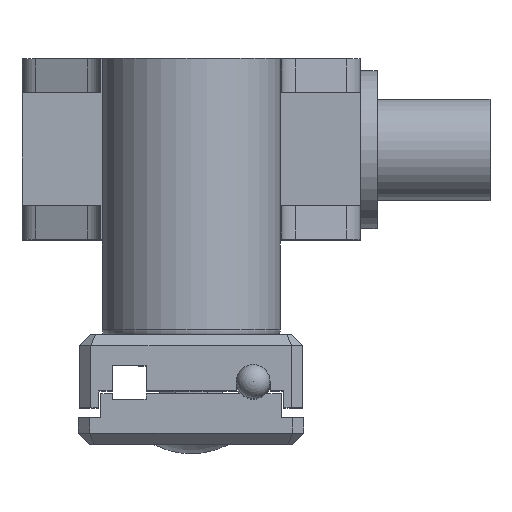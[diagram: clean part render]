
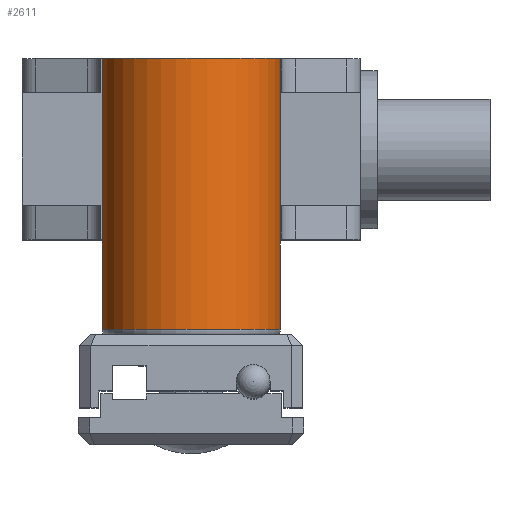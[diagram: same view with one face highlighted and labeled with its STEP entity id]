
A CAD part, top view. The second image highlights one B-rep face of the part: STEP entity #2611.
In plain terms, the highlighted cylindrical face has radius 7.9 mm (diameter 15.8 mm), a full revolution.
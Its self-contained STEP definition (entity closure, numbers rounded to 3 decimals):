
#282=FACE_OUTER_BOUND('',#443,.T.);
#443=EDGE_LOOP('',(#2354,#2355,#2356,#2357,#2358,#2359,#2360));
#711=LINE('',#4339,#983);
#712=LINE('',#4341,#984);
#713=LINE('',#4345,#985);
#983=VECTOR('',#3571,7.9);
#984=VECTOR('',#3572,10.);
#985=VECTOR('',#3575,10.);
#1072=CIRCLE('',#2857,7.9);
#1076=CIRCLE('',#2863,7.9);
#1077=CIRCLE('',#2864,7.9);
#1300=VERTEX_POINT('',#4329);
#1303=VERTEX_POINT('',#4338);
#1304=VERTEX_POINT('',#4340);
#1305=VERTEX_POINT('',#4342);
#1306=VERTEX_POINT('',#4344);
#1651=EDGE_CURVE('',#1300,#1300,#1072,.T.);
#1655=EDGE_CURVE('',#1300,#1303,#711,.T.);
#1656=EDGE_CURVE('',#1304,#1303,#712,.T.);
#1657=EDGE_CURVE('',#1305,#1304,#1076,.T.);
#1658=EDGE_CURVE('',#1305,#1306,#713,.T.);
#1659=EDGE_CURVE('',#1303,#1306,#1077,.T.);
#2354=ORIENTED_EDGE('',*,*,#1651,.F.);
#2355=ORIENTED_EDGE('',*,*,#1655,.T.);
#2356=ORIENTED_EDGE('',*,*,#1656,.F.);
#2357=ORIENTED_EDGE('',*,*,#1657,.F.);
#2358=ORIENTED_EDGE('',*,*,#1658,.T.);
#2359=ORIENTED_EDGE('',*,*,#1659,.F.);
#2360=ORIENTED_EDGE('',*,*,#1655,.F.);
#2418=CYLINDRICAL_SURFACE('',#2862,7.9);
#2611=ADVANCED_FACE('',(#282),#2418,.T.);
#2857=AXIS2_PLACEMENT_3D('',#4330,#3559,#3560);
#2862=AXIS2_PLACEMENT_3D('',#4337,#3569,#3570);
#2863=AXIS2_PLACEMENT_3D('',#4343,#3573,#3574);
#2864=AXIS2_PLACEMENT_3D('',#4346,#3576,#3577);
#3559=DIRECTION('center_axis',(0.,-1.,0.));
#3560=DIRECTION('ref_axis',(-1.,0.,0.));
#3569=DIRECTION('center_axis',(0.,-1.,0.));
#3570=DIRECTION('ref_axis',(-1.,0.,0.));
#3571=DIRECTION('',(0.,1.,0.));
#3572=DIRECTION('',(0.,-1.,0.));
#3573=DIRECTION('center_axis',(0.,1.,0.));
#3574=DIRECTION('ref_axis',(-1.,0.,0.));
#3575=DIRECTION('',(0.,-1.,0.));
#3576=DIRECTION('center_axis',(0.,1.,0.));
#3577=DIRECTION('ref_axis',(-1.,0.,0.));
#4329=CARTESIAN_POINT('',(7.9,-24.,17.8));
#4330=CARTESIAN_POINT('Origin',(0.,-24.,17.8));
#4337=CARTESIAN_POINT('Origin',(0.,0.,17.8));
#4338=CARTESIAN_POINT('',(7.9,-16.,17.8));
#4339=CARTESIAN_POINT('',(7.9,0.,17.8));
#4340=CARTESIAN_POINT('',(7.9,0.,17.8));
#4341=CARTESIAN_POINT('',(7.9,0.,17.8));
#4342=CARTESIAN_POINT('',(-7.9,0.,17.8));
#4343=CARTESIAN_POINT('Origin',(0.,0.,17.8));
#4344=CARTESIAN_POINT('',(-7.9,-16.,17.8));
#4345=CARTESIAN_POINT('',(-7.9,0.,17.8));
#4346=CARTESIAN_POINT('Origin',(0.,-16.,17.8));
